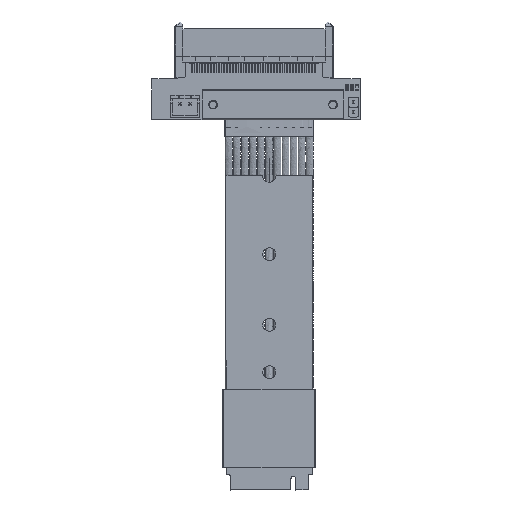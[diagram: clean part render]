
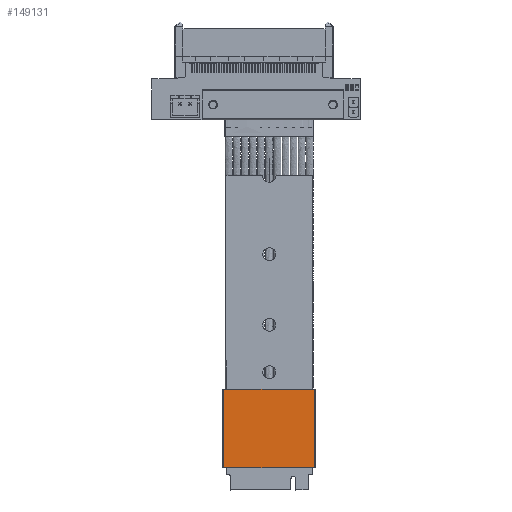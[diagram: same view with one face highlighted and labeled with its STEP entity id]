
A CAD part, top view. The second image highlights one B-rep face of the part: STEP entity #149131.
In plain terms, the highlighted planar face has unit normal (0, 0, 1) as drawn and (0, 0, -1) by its records, which use the part's own axes.
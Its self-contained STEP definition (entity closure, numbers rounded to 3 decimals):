
#148890 = VERTEX_POINT('',#148891);
#148891 = CARTESIAN_POINT('',(23.299,20.,
    -1.599));
#148898 = EDGE_CURVE('',#148899,#148890,#148901,.T.);
#148899 = VERTEX_POINT('',#148900);
#148900 = CARTESIAN_POINT('',(0.3,20.,-1.599));
#148901 = LINE('',#148902,#148903);
#148902 = CARTESIAN_POINT('',(-101.269,20.,
    -1.599));
#148903 = VECTOR('',#148904,1.);
#148904 = DIRECTION('',(1.,0.,0.));
#149059 = EDGE_CURVE('',#149060,#149062,#149064,.T.);
#149060 = VERTEX_POINT('',#149061);
#149061 = CARTESIAN_POINT('',(23.299,0.,
    -1.599));
#149062 = VERTEX_POINT('',#149063);
#149063 = CARTESIAN_POINT('',(0.3,0.,-1.599));
#149064 = LINE('',#149065,#149066);
#149065 = CARTESIAN_POINT('',(-101.269,0.,
    -1.599));
#149066 = VECTOR('',#149067,1.);
#149067 = DIRECTION('',(-1.,0.,0.));
#149131 = ADVANCED_FACE('',(#149132),#149148,.F.);
#149132 = FACE_BOUND('',#149133,.T.);
#149133 = EDGE_LOOP('',(#149134,#149135,#149141,#149142));
#149134 = ORIENTED_EDGE('',*,*,#148898,.T.);
#149135 = ORIENTED_EDGE('',*,*,#149136,.T.);
#149136 = EDGE_CURVE('',#148890,#149060,#149137,.T.);
#149137 = LINE('',#149138,#149139);
#149138 = CARTESIAN_POINT('',(23.299,0.,
    -1.599));
#149139 = VECTOR('',#149140,1.);
#149140 = DIRECTION('',(0.,-1.,0.));
#149141 = ORIENTED_EDGE('',*,*,#149059,.T.);
#149142 = ORIENTED_EDGE('',*,*,#149143,.T.);
#149143 = EDGE_CURVE('',#149062,#148899,#149144,.T.);
#149144 = LINE('',#149145,#149146);
#149145 = CARTESIAN_POINT('',(0.3,-73.074,-1.599));
#149146 = VECTOR('',#149147,1.);
#149147 = DIRECTION('',(0.,1.,0.));
#149148 = PLANE('',#149149);
#149149 = AXIS2_PLACEMENT_3D('',#149150,#149151,#149152);
#149150 = CARTESIAN_POINT('',(-101.269,-73.074,
    -1.599));
#149151 = DIRECTION('',(0.,0.,1.));
#149152 = DIRECTION('',(0.,-1.,0.));
